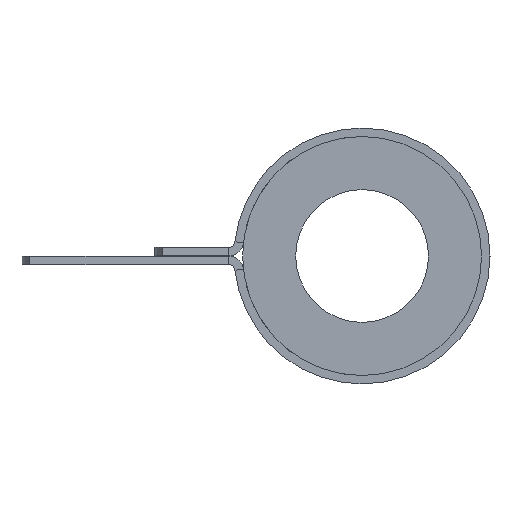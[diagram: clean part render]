
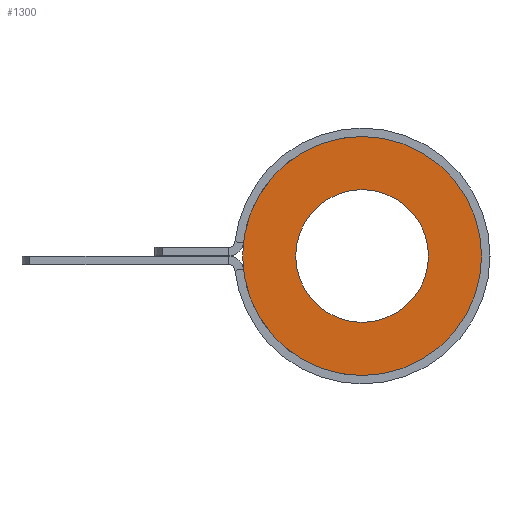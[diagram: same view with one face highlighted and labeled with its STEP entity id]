
A CAD part, left-side view. The second image highlights one B-rep face of the part: STEP entity #1300.
In plain terms, the highlighted planar face has unit normal (-1, 0, 0).
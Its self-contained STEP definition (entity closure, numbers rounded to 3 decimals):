
#24 = AXIS2_PLACEMENT_3D ( 'NONE', #1219, #1027, #1226 ) ;
#55 = AXIS2_PLACEMENT_3D ( 'NONE', #1056, #965, #862 ) ;
#91 = EDGE_CURVE ( 'NONE', #300, #301, #719, .T. ) ;
#92 = EDGE_CURVE ( 'NONE', #284, #285, #504, .T. ) ;
#93 = EDGE_CURVE ( 'NONE', #285, #284, #712, .T. ) ;
#103 = EDGE_CURVE ( 'NONE', #301, #300, #690, .T. ) ;
#143 = AXIS2_PLACEMENT_3D ( 'NONE', #996, #997, #1003 ) ;
#151 = AXIS2_PLACEMENT_3D ( 'NONE', #880, #831, #969 ) ;
#190 = AXIS2_PLACEMENT_3D ( 'NONE', #1195, #989, #991 ) ;
#235 = ORIENTED_EDGE ( 'NONE', *, *, #103, .F. ) ;
#284 = VERTEX_POINT ( 'NONE', #819 ) ;
#285 = VERTEX_POINT ( 'NONE', #1183 ) ;
#300 = VERTEX_POINT ( 'NONE', #1022 ) ;
#301 = VERTEX_POINT ( 'NONE', #937 ) ;
#343 = EDGE_LOOP ( 'NONE', ( #394, #388 ) ) ;
#361 = ORIENTED_EDGE ( 'NONE', *, *, #91, .F. ) ;
#388 = ORIENTED_EDGE ( 'NONE', *, *, #93, .T. ) ;
#394 = ORIENTED_EDGE ( 'NONE', *, *, #92, .T. ) ;
#422 = EDGE_LOOP ( 'NONE', ( #361, #235 ) ) ;
#504 = CIRCLE ( 'NONE', #190, 3.969 ) ;
#690 = CIRCLE ( 'NONE', #151, 7.144 ) ;
#712 = CIRCLE ( 'NONE', #143, 3.969 ) ;
#719 = CIRCLE ( 'NONE', #24, 7.144 ) ;
#796 = FACE_BOUND ( 'NONE', #343, .T. ) ;
#805 = FACE_OUTER_BOUND ( 'NONE', #422, .T. ) ;
#819 = CARTESIAN_POINT ( 'NONE',  ( -50.8, 0., 3.969 ) ) ;
#831 = DIRECTION ( 'NONE',  ( 1., 0., 0. ) ) ;
#862 = DIRECTION ( 'NONE',  ( 0., 0., -1. ) ) ;
#863 = PLANE ( 'NONE',  #55 ) ;
#880 = CARTESIAN_POINT ( 'NONE',  ( -50.8, 0., 0. ) ) ;
#937 = CARTESIAN_POINT ( 'NONE',  ( -50.8, 0., -7.144 ) ) ;
#965 = DIRECTION ( 'NONE',  ( 1., 0., 0. ) ) ;
#969 = DIRECTION ( 'NONE',  ( 0., 0., -1. ) ) ;
#989 = DIRECTION ( 'NONE',  ( 1., 0., 0. ) ) ;
#991 = DIRECTION ( 'NONE',  ( 0., 0., -1. ) ) ;
#996 = CARTESIAN_POINT ( 'NONE',  ( -50.8, 0., 0. ) ) ;
#997 = DIRECTION ( 'NONE',  ( 1., 0., 0. ) ) ;
#1003 = DIRECTION ( 'NONE',  ( 0., 0., -1. ) ) ;
#1022 = CARTESIAN_POINT ( 'NONE',  ( -50.8, 0., 7.144 ) ) ;
#1027 = DIRECTION ( 'NONE',  ( 1., 0., 0. ) ) ;
#1056 = CARTESIAN_POINT ( 'NONE',  ( -50.8, 0., 0. ) ) ;
#1183 = CARTESIAN_POINT ( 'NONE',  ( -50.8, 0., -3.969 ) ) ;
#1195 = CARTESIAN_POINT ( 'NONE',  ( -50.8, 0., 0. ) ) ;
#1219 = CARTESIAN_POINT ( 'NONE',  ( -50.8, 0., 0. ) ) ;
#1226 = DIRECTION ( 'NONE',  ( 0., 0., -1. ) ) ;
#1300 = ADVANCED_FACE ( 'NONE', ( #805, #796 ), #863, .F. ) ;
